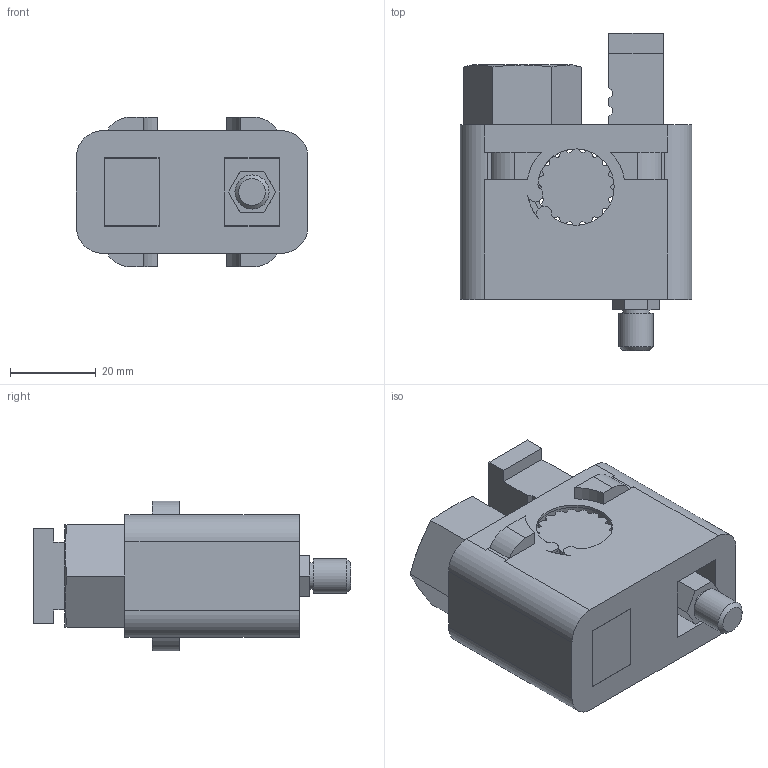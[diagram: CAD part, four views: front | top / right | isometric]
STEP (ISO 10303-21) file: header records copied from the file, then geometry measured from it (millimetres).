
FILE_DESCRIPTION(/* description */ ('STEP AP214'),/* implementation_level */ '2;1');
FILE_NAME(/* name */ 'AEP-10',/* time_stamp */ '2024-12-04T11:06:11+01:00',/* author */ ('License CC BY-ND 4.0'),/* organization */ ('CADENAS'),/* preprocessor_version */ 'ST-DEVELOPER v19.3',/* originating_system */ 'PARTsolutions',/* authorisation */ ' ');
FILE_SCHEMA (('AUTOMOTIVE_DESIGN {1 0 10303 214 3 1 1}'));
Length unit declared in the file: inch
Products named in the file (5): AEP-10; AEP-101; AEP-102; AEP-103; AEP-104
Assembly tree (4 placements, depth 2):
  AEP-10
    AEP-101
    AEP-102
    AEP-103
    AEP-104
Bounding box: 53.98 x 73.86 x 34.92 mm (x, y, z)
Volume: 69013.2 mm3; surface area: 25341 mm2
Topology: 4 solids, 4 shells, 254 faces, 716 edges, 475 vertices
Faces by surface type: plane 180, cylinder 66, cone 8
Full cylindrical faces by diameter (mm): 3.175 x1, 6.259 x1, 6.35 x1, 7.938 x1, 20.32 x1, 22.86 x2
Entity records: 8266 total; most frequent: CARTESIAN_POINT 1508, ORIENTED_EDGE 1402, DIRECTION 1353, EDGE_CURVE 701, LINE 515, VECTOR 515, VERTEX_POINT 470, AXIS2_PLACEMENT_3D 419
